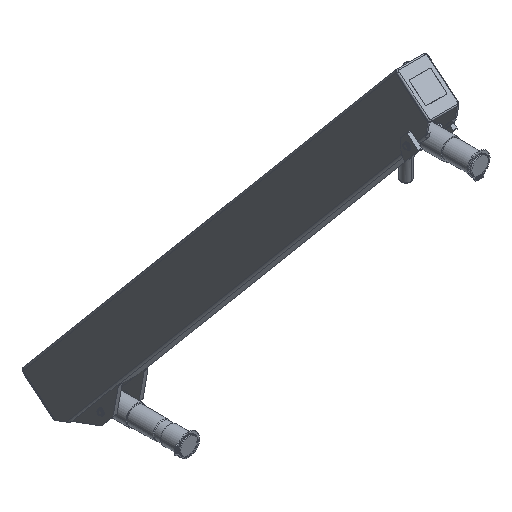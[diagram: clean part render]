
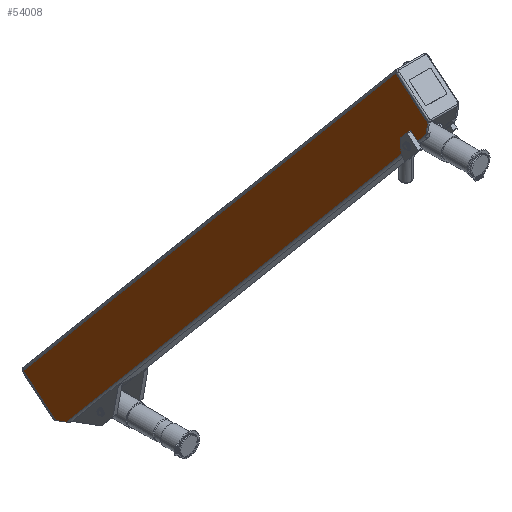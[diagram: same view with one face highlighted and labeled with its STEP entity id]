
A CAD part, isometric view. The second image highlights one B-rep face of the part: STEP entity #54008.
In plain terms, the highlighted planar face has unit normal (-1, 0, 0).
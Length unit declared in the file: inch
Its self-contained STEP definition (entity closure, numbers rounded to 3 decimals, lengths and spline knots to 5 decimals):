
#92 = CARTESIAN_POINT ( 'NONE',  ( -1.5, -2.315, 26.5 ) ) ;
#300 = VECTOR ( 'NONE', #28135, 39.37008 ) ;
#562 = ORIENTED_EDGE ( 'NONE', *, *, #55919, .F. ) ;
#2769 = VERTEX_POINT ( 'NONE', #49342 ) ;
#3575 = AXIS2_PLACEMENT_3D ( 'NONE', #8324, #28258, #49482 ) ;
#4438 = LINE ( 'NONE', #24377, #31426 ) ;
#4545 = CARTESIAN_POINT ( 'NONE',  ( -1.5, -0.1, 0. ) ) ;
#4724 = ORIENTED_EDGE ( 'NONE', *, *, #63643, .F. ) ;
#4998 = VECTOR ( 'NONE', #38418, 39.37008 ) ;
#7512 = CARTESIAN_POINT ( 'NONE',  ( -1.5, -0.1, 28. ) ) ;
#7910 = LINE ( 'NONE', #57149, #35420 ) ;
#8324 = CARTESIAN_POINT ( 'NONE',  ( -1.5, -2.315, 26.5 ) ) ;
#8429 = AXIS2_PLACEMENT_3D ( 'NONE', #92, #39959, #35622 ) ;
#10030 = CARTESIAN_POINT ( 'NONE',  ( -1.5, -2.4, 26.625 ) ) ;
#10067 = CARTESIAN_POINT ( 'NONE',  ( -1.5, -2.37942, 26.625 ) ) ;
#12006 = EDGE_CURVE ( 'NONE', #26176, #38068, #29394, .T. ) ;
#12585 = EDGE_CURVE ( 'NONE', #38068, #26620, #62867, .T. ) ;
#13106 = PLANE ( 'NONE',  #16267 ) ;
#13525 = DIRECTION ( 'NONE',  ( 0., 0., -1. ) ) ;
#14785 = CIRCLE ( 'NONE', #8429, 0.14062 ) ;
#15735 = VERTEX_POINT ( 'NONE', #4545 ) ;
#15817 = CARTESIAN_POINT ( 'NONE',  ( -1.5, -0.1, 28. ) ) ;
#16267 = AXIS2_PLACEMENT_3D ( 'NONE', #7512, #53329, #22781 ) ;
#17063 = VECTOR ( 'NONE', #37668, 39.37008 ) ;
#17400 = CARTESIAN_POINT ( 'NONE',  ( -1.5, -0.1, 28. ) ) ;
#18279 = EDGE_LOOP ( 'NONE', ( #32750, #43289, #63751, #4724, #27925, #43117, #37510, #39428, #34006, #40675, #562 ) ) ;
#18491 = CARTESIAN_POINT ( 'NONE',  ( -1.5, -2.4, 28. ) ) ;
#18565 = CARTESIAN_POINT ( 'NONE',  ( -1.5, -2.4, 0.47631 ) ) ;
#18778 = DIRECTION ( 'NONE',  ( 0., 0.5, 0.866 ) ) ;
#19505 = CARTESIAN_POINT ( 'NONE',  ( -1.5, -2.37942, 26.375 ) ) ;
#20457 = DIRECTION ( 'NONE',  ( 0., -0.5, 0.866 ) ) ;
#21546 = EDGE_CURVE ( 'NONE', #54011, #35265, #48709, .T. ) ;
#22781 = DIRECTION ( 'NONE',  ( 0., -1., 0. ) ) ;
#22803 = CARTESIAN_POINT ( 'NONE',  ( -1.5, -0.1, 0. ) ) ;
#24377 = CARTESIAN_POINT ( 'NONE',  ( -1.5, -2.5, 26.375 ) ) ;
#25990 = CARTESIAN_POINT ( 'NONE',  ( -1.5, -0.1, 28. ) ) ;
#26176 = VERTEX_POINT ( 'NONE', #44082 ) ;
#26293 = EDGE_CURVE ( 'NONE', #28489, #46058, #7910, .T. ) ;
#26438 = LINE ( 'NONE', #55961, #64092 ) ;
#26620 = VERTEX_POINT ( 'NONE', #15817 ) ;
#27056 = CARTESIAN_POINT ( 'NONE',  ( -1.5, -2.125, 0. ) ) ;
#27925 = ORIENTED_EDGE ( 'NONE', *, *, #28034, .T. ) ;
#28034 = EDGE_CURVE ( 'NONE', #64403, #35265, #26438, .T. ) ;
#28089 = FACE_OUTER_BOUND ( 'NONE', #18279, .T. ) ;
#28135 = DIRECTION ( 'NONE',  ( 0., 0., -1. ) ) ;
#28258 = DIRECTION ( 'NONE',  ( 1., 0., 0. ) ) ;
#28489 = VERTEX_POINT ( 'NONE', #10067 ) ;
#29394 = LINE ( 'NONE', #38402, #36337 ) ;
#30061 = CIRCLE ( 'NONE', #3575, 0.14062 ) ;
#31426 = VECTOR ( 'NONE', #45290, 39.37008 ) ;
#32750 = ORIENTED_EDGE ( 'NONE', *, *, #12006, .T. ) ;
#34006 = ORIENTED_EDGE ( 'NONE', *, *, #50256, .T. ) ;
#34849 = VECTOR ( 'NONE', #39972, 39.37008 ) ;
#35265 = VERTEX_POINT ( 'NONE', #18565 ) ;
#35420 = VECTOR ( 'NONE', #52167, 39.37008 ) ;
#35622 = DIRECTION ( 'NONE',  ( 0., 1., 0. ) ) ;
#36337 = VECTOR ( 'NONE', #18778, 39.37008 ) ;
#37510 = ORIENTED_EDGE ( 'NONE', *, *, #38729, .T. ) ;
#37668 = DIRECTION ( 'NONE',  ( 0., 1., 0. ) ) ;
#38068 = VERTEX_POINT ( 'NONE', #38848 ) ;
#38402 = CARTESIAN_POINT ( 'NONE',  ( -1.5, -2.5, 27.35048 ) ) ;
#38418 = DIRECTION ( 'NONE',  ( 0., 1., 0. ) ) ;
#38729 = EDGE_CURVE ( 'NONE', #54011, #53721, #4438, .T. ) ;
#38848 = CARTESIAN_POINT ( 'NONE',  ( -1.5, -2.125, 28. ) ) ;
#39428 = ORIENTED_EDGE ( 'NONE', *, *, #46000, .T. ) ;
#39959 = DIRECTION ( 'NONE',  ( 1., 0., 0. ) ) ;
#39972 = DIRECTION ( 'NONE',  ( 0., 0., -1. ) ) ;
#40675 = ORIENTED_EDGE ( 'NONE', *, *, #26293, .T. ) ;
#43117 = ORIENTED_EDGE ( 'NONE', *, *, #21546, .F. ) ;
#43289 = ORIENTED_EDGE ( 'NONE', *, *, #12585, .T. ) ;
#43619 = EDGE_CURVE ( 'NONE', #26620, #15735, #65156, .T. ) ;
#43785 = CARTESIAN_POINT ( 'NONE',  ( -1.5, -2.4, 28. ) ) ;
#44082 = CARTESIAN_POINT ( 'NONE',  ( -1.5, -2.4, 27.52369 ) ) ;
#45290 = DIRECTION ( 'NONE',  ( 0., 1., 0. ) ) ;
#46000 = EDGE_CURVE ( 'NONE', #53721, #2769, #14785, .T. ) ;
#46058 = VERTEX_POINT ( 'NONE', #10030 ) ;
#48709 = LINE ( 'NONE', #18491, #300 ) ;
#49342 = CARTESIAN_POINT ( 'NONE',  ( -1.5, -2.17438, 26.5 ) ) ;
#49482 = DIRECTION ( 'NONE',  ( 0., 1., 0. ) ) ;
#50256 = EDGE_CURVE ( 'NONE', #2769, #28489, #30061, .T. ) ;
#52167 = DIRECTION ( 'NONE',  ( 0., -1., 0. ) ) ;
#53329 = DIRECTION ( 'NONE',  ( -1., 0., 0. ) ) ;
#53721 = VERTEX_POINT ( 'NONE', #19505 ) ;
#54008 = ADVANCED_FACE ( 'NONE', ( #28089 ), #13106, .T. ) ;
#54011 = VERTEX_POINT ( 'NONE', #57967 ) ;
#54060 = LINE ( 'NONE', #43785, #56442 ) ;
#55919 = EDGE_CURVE ( 'NONE', #26176, #46058, #54060, .T. ) ;
#55961 = CARTESIAN_POINT ( 'NONE',  ( -1.5, -2.5, 0.64952 ) ) ;
#56442 = VECTOR ( 'NONE', #13525, 39.37008 ) ;
#57149 = CARTESIAN_POINT ( 'NONE',  ( -1.5, -2.5, 26.625 ) ) ;
#57967 = CARTESIAN_POINT ( 'NONE',  ( -1.5, -2.4, 26.375 ) ) ;
#62867 = LINE ( 'NONE', #17400, #17063 ) ;
#63643 = EDGE_CURVE ( 'NONE', #64403, #15735, #63931, .T. ) ;
#63751 = ORIENTED_EDGE ( 'NONE', *, *, #43619, .T. ) ;
#63931 = LINE ( 'NONE', #22803, #4998 ) ;
#64092 = VECTOR ( 'NONE', #20457, 39.37008 ) ;
#64403 = VERTEX_POINT ( 'NONE', #27056 ) ;
#65156 = LINE ( 'NONE', #25990, #34849 ) ;
